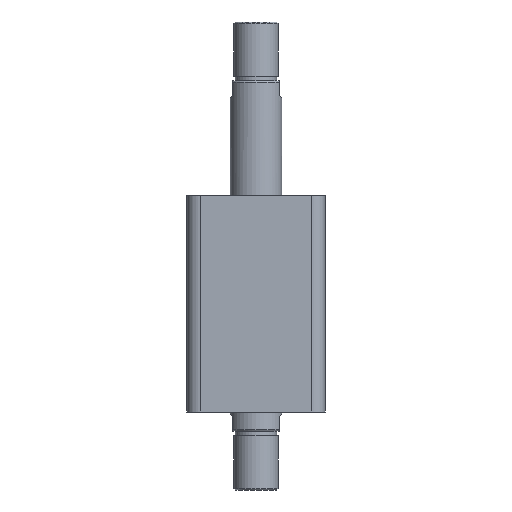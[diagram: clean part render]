
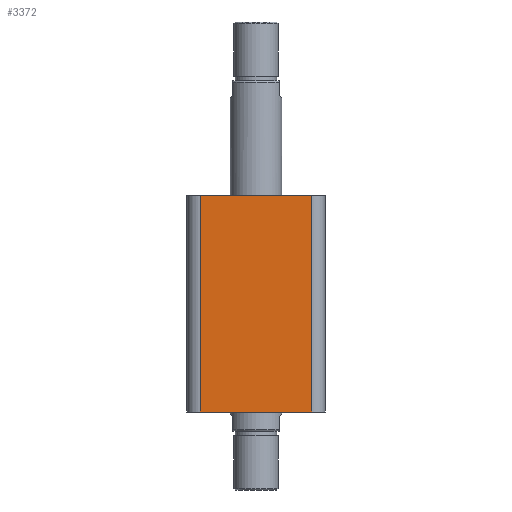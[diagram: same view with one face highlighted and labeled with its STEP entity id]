
A CAD part, front view. The second image highlights one B-rep face of the part: STEP entity #3372.
In plain terms, the highlighted planar face has unit normal (0, -1, 0).
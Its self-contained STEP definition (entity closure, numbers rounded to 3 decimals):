
#99 = ORIENTED_EDGE ( 'NONE', *, *, #524, .F. ) ;
#100 = ORIENTED_EDGE ( 'NONE', *, *, #517, .T. ) ;
#101 = ORIENTED_EDGE ( 'NONE', *, *, #872, .T. ) ;
#102 = ORIENTED_EDGE ( 'NONE', *, *, #873, .T. ) ;
#215 = VERTEX_POINT ( 'NONE', #1936 ) ;
#224 = VERTEX_POINT ( 'NONE', #1945 ) ;
#225 = VERTEX_POINT ( 'NONE', #1946 ) ;
#226 = VERTEX_POINT ( 'NONE', #1947 ) ;
#517 = EDGE_CURVE ( 'NONE', #215, #225, #1303, .T. ) ;
#524 = EDGE_CURVE ( 'NONE', #215, #224, #1313, .T. ) ;
#681 = AXIS2_PLACEMENT_3D ( 'NONE', #2504, #2508, #2509 ) ;
#872 = EDGE_CURVE ( 'NONE', #225, #226, #1356, .T. ) ;
#873 = EDGE_CURVE ( 'NONE', #226, #224, #1357, .T. ) ;
#989 = EDGE_LOOP ( 'NONE', ( #99, #100, #101, #102 ) ) ;
#1303 = LINE ( 'NONE', #3139, #1310 ) ;
#1310 = VECTOR ( 'NONE', #3144, 1000. ) ;
#1313 = LINE ( 'NONE', #3155, #1323 ) ;
#1323 = VECTOR ( 'NONE', #3148, 1000. ) ;
#1356 = LINE ( 'NONE', #3211, #1358 ) ;
#1357 = LINE ( 'NONE', #3219, #1360 ) ;
#1358 = VECTOR ( 'NONE', #3210, 1000. ) ;
#1360 = VECTOR ( 'NONE', #3220, 1000. ) ;
#1434 = FACE_OUTER_BOUND ( 'NONE', #989, .T. ) ;
#1936 = CARTESIAN_POINT ( 'NONE',  ( -38., -47., 147. ) ) ;
#1945 = CARTESIAN_POINT ( 'NONE',  ( 38., -47., 147. ) ) ;
#1946 = CARTESIAN_POINT ( 'NONE',  ( -38., -47., 0. ) ) ;
#1947 = CARTESIAN_POINT ( 'NONE',  ( 38., -47., 0. ) ) ;
#2504 = CARTESIAN_POINT ( 'NONE',  ( -47., -47., 147. ) ) ;
#2506 = PLANE ( 'NONE',  #681 ) ;
#2508 = DIRECTION ( 'NONE',  ( 0., 1., 0. ) ) ;
#2509 = DIRECTION ( 'NONE',  ( 0., 0., 1. ) ) ;
#3139 = CARTESIAN_POINT ( 'NONE',  ( -38., -47., 147. ) ) ;
#3144 = DIRECTION ( 'NONE',  ( 0., 0., -1. ) ) ;
#3148 = DIRECTION ( 'NONE',  ( 1., 0., 0. ) ) ;
#3155 = CARTESIAN_POINT ( 'NONE',  ( -47., -47., 147. ) ) ;
#3210 = DIRECTION ( 'NONE',  ( 1., 0., 0. ) ) ;
#3211 = CARTESIAN_POINT ( 'NONE',  ( -47., -47., 0. ) ) ;
#3219 = CARTESIAN_POINT ( 'NONE',  ( 38., -47., 147. ) ) ;
#3220 = DIRECTION ( 'NONE',  ( 0., 0., 1. ) ) ;
#3372 = ADVANCED_FACE ( 'NONE', ( #1434 ), #2506, .F. ) ;
